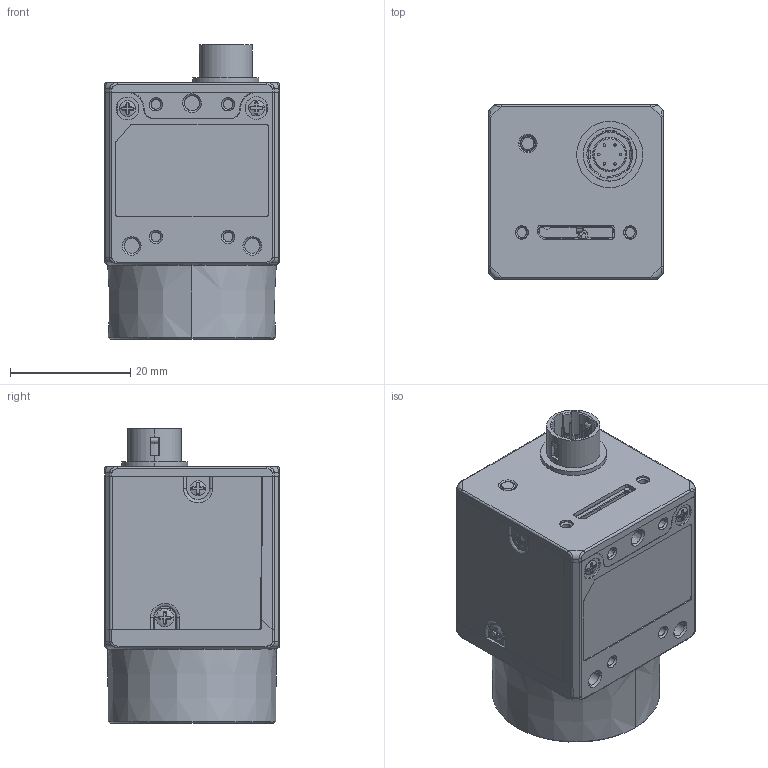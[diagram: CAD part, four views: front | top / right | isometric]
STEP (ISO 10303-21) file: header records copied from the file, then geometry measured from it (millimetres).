
FILE_DESCRIPTION((''),'2;1');
FILE_NAME('MV-CA004-10UMUC','2020-03-11T13:51:24',('wangyijun6'),(''),'CREO PARAMETRIC BY PTC INC, 2017260','CREO PARAMETRIC BY PTC INC, 2017260','');
FILE_SCHEMA(('CONFIG_CONTROL_DESIGN'));
Products named in the file (1): MV-CA004-10UMUC
Bounding box: 29.03 x 29 x 48.91 mm (x, y, z)
Volume: 26369.7 mm3; surface area: 9138.7 mm2
Topology: 1 solids, 8 shells, 1508 faces, 4212 edges, 2717 vertices
Faces by surface type: plane 628, cylinder 359, cone 227, bspline 144, torus 118, extrusion 16, sphere 16
Entity records: 59672 total; most frequent: CARTESIAN_POINT 21479, ORIENTED_EDGE 8384, DIRECTION 7717, EDGE_CURVE 4192, AXIS2_PLACEMENT_3D 2844, VERTEX_POINT 2717, VECTOR 2029, LINE 2013
